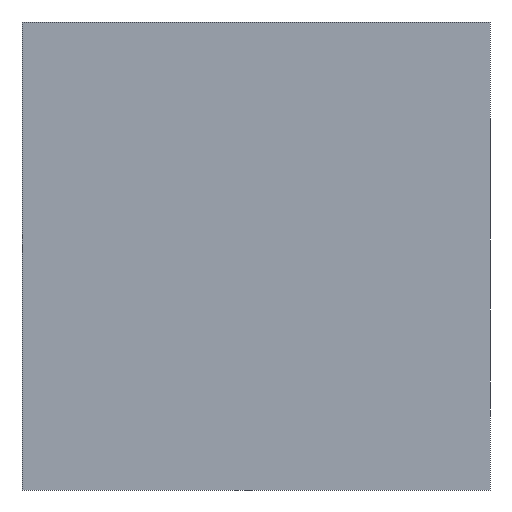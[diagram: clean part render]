
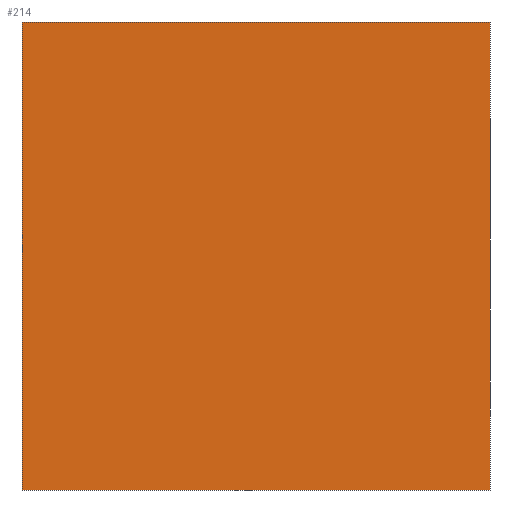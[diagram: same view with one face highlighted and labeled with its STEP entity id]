
A CAD part, front view. The second image highlights one B-rep face of the part: STEP entity #214.
In plain terms, the highlighted planar face has unit normal (0, -1, 0).
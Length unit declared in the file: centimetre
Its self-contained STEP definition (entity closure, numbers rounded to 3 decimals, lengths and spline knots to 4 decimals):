
#6 = EDGE_CURVE ( 'NONE', #362, #257, #282, .T. ) ;
#68 = VERTEX_POINT ( 'NONE', #305 ) ;
#96 = DIRECTION ( 'NONE',  ( 0., 0., 1. ) ) ;
#100 = VECTOR ( 'NONE', #705, 100. ) ;
#139 = EDGE_CURVE ( 'NONE', #257, #564, #470, .T. ) ;
#154 = ORIENTED_EDGE ( 'NONE', *, *, #6, .T. ) ;
#179 = CARTESIAN_POINT ( 'NONE',  ( 0., 0., 0. ) ) ;
#190 = CARTESIAN_POINT ( 'NONE',  ( 0., 0., 0. ) ) ;
#214 = ADVANCED_FACE ( 'NONE', ( #712 ), #595, .F. ) ;
#231 = AXIS2_PLACEMENT_3D ( 'NONE', #715, #442, #96 ) ;
#255 = CARTESIAN_POINT ( 'NONE',  ( 1000., 0., 1000. ) ) ;
#257 = VERTEX_POINT ( 'NONE', #179 ) ;
#265 = VECTOR ( 'NONE', #528, 100. ) ;
#282 = LINE ( 'NONE', #572, #334 ) ;
#305 = CARTESIAN_POINT ( 'NONE',  ( 1000., 0., 1000. ) ) ;
#334 = VECTOR ( 'NONE', #354, 100. ) ;
#354 = DIRECTION ( 'NONE',  ( 0., 0., -1. ) ) ;
#362 = VERTEX_POINT ( 'NONE', #519 ) ;
#376 = CARTESIAN_POINT ( 'NONE',  ( 0., 0., 1000. ) ) ;
#390 = ORIENTED_EDGE ( 'NONE', *, *, #680, .F. ) ;
#410 = VECTOR ( 'NONE', #594, 100. ) ;
#425 = LINE ( 'NONE', #255, #100 ) ;
#429 = LINE ( 'NONE', #376, #410 ) ;
#442 = DIRECTION ( 'NONE',  ( 0., 1., 0. ) ) ;
#470 = LINE ( 'NONE', #190, #265 ) ;
#519 = CARTESIAN_POINT ( 'NONE',  ( 0., 0., 1000. ) ) ;
#528 = DIRECTION ( 'NONE',  ( 1., 0., 0. ) ) ;
#545 = ORIENTED_EDGE ( 'NONE', *, *, #701, .F. ) ;
#564 = VERTEX_POINT ( 'NONE', #573 ) ;
#572 = CARTESIAN_POINT ( 'NONE',  ( 0., 0., 1000. ) ) ;
#573 = CARTESIAN_POINT ( 'NONE',  ( 1000., 0., 0. ) ) ;
#594 = DIRECTION ( 'NONE',  ( 1., 0., 0. ) ) ;
#595 = PLANE ( 'NONE',  #231 ) ;
#599 = EDGE_LOOP ( 'NONE', ( #709, #390, #545, #154 ) ) ;
#680 = EDGE_CURVE ( 'NONE', #68, #564, #425, .T. ) ;
#701 = EDGE_CURVE ( 'NONE', #362, #68, #429, .T. ) ;
#705 = DIRECTION ( 'NONE',  ( 0., 0., -1. ) ) ;
#709 = ORIENTED_EDGE ( 'NONE', *, *, #139, .T. ) ;
#712 = FACE_OUTER_BOUND ( 'NONE', #599, .T. ) ;
#715 = CARTESIAN_POINT ( 'NONE',  ( 0., 0., 1000. ) ) ;
